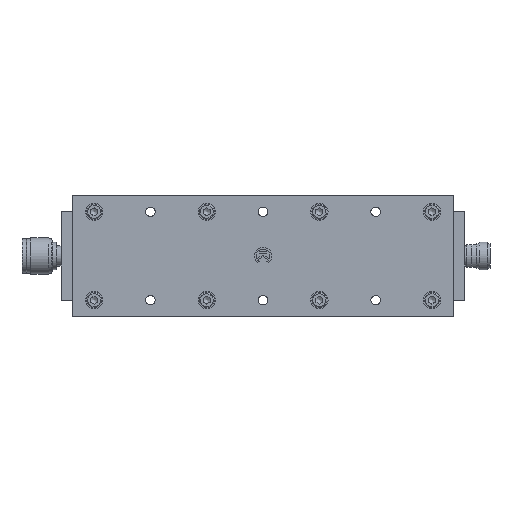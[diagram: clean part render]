
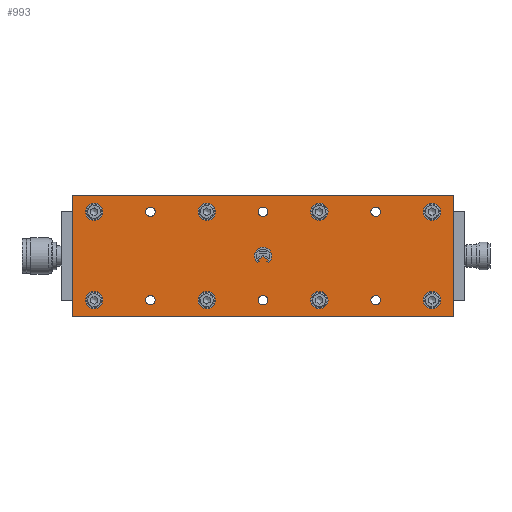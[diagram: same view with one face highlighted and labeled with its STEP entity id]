
A CAD part, top view. The second image highlights one B-rep face of the part: STEP entity #993.
In plain terms, the highlighted planar face has unit normal (0, 0, 1).
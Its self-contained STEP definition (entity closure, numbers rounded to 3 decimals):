
#993=ADVANCED_FACE('',(#2013,#2015,#2017,#2019,#2021,#2023,#2025,#2027,#2029,#2031,
#2033,#2035,#2037,#2039,#2041,#2043),#2045,.T.);
#2013=FACE_BOUND('',#2014,.T.);
#2014=EDGE_LOOP('',(#4165,#4166,#4167,#4168));
#2015=FACE_BOUND('',#2016,.T.);
#2016=EDGE_LOOP('',(#4169,#4170,#4171,#4172,#4173,#4174,#4175));
#2017=FACE_BOUND('',#2018,.T.);
#2018=EDGE_LOOP('',(#4176));
#2019=FACE_BOUND('',#2020,.T.);
#2020=EDGE_LOOP('',(#4177));
#2021=FACE_BOUND('',#2022,.T.);
#2022=EDGE_LOOP('',(#4178));
#2023=FACE_BOUND('',#2024,.T.);
#2024=EDGE_LOOP('',(#4179));
#2025=FACE_BOUND('',#2026,.T.);
#2026=EDGE_LOOP('',(#4180));
#2027=FACE_BOUND('',#2028,.T.);
#2028=EDGE_LOOP('',(#4181));
#2029=FACE_BOUND('',#2030,.T.);
#2030=EDGE_LOOP('',(#4182));
#2031=FACE_BOUND('',#2032,.T.);
#2032=EDGE_LOOP('',(#4183));
#2033=FACE_BOUND('',#2034,.T.);
#2034=EDGE_LOOP('',(#4184));
#2035=FACE_BOUND('',#2036,.T.);
#2036=EDGE_LOOP('',(#4185));
#2037=FACE_BOUND('',#2038,.T.);
#2038=EDGE_LOOP('',(#4186));
#2039=FACE_BOUND('',#2040,.T.);
#2040=EDGE_LOOP('',(#4187));
#2041=FACE_BOUND('',#2042,.T.);
#2042=EDGE_LOOP('',(#4188));
#2043=FACE_BOUND('',#2044,.T.);
#2044=EDGE_LOOP('',(#4189));
#2045=PLANE('',#2046);
#2046=AXIS2_PLACEMENT_3D('',#2047,#2048,#2049);
#2047=CARTESIAN_POINT('',(-35.,-110.,12.5));
#2048=DIRECTION('',(0.,0.,1.));
#2049=DIRECTION('',(1.,0.,0.));
#4165=ORIENTED_EDGE('',*,*,#4992,.F.);
#4166=ORIENTED_EDGE('',*,*,#4993,.T.);
#4167=ORIENTED_EDGE('',*,*,#4994,.T.);
#4168=ORIENTED_EDGE('',*,*,#4995,.F.);
#4169=ORIENTED_EDGE('',*,*,#4996,.T.);
#4170=ORIENTED_EDGE('',*,*,#4997,.T.);
#4171=ORIENTED_EDGE('',*,*,#4998,.T.);
#4172=ORIENTED_EDGE('',*,*,#4999,.T.);
#4173=ORIENTED_EDGE('',*,*,#5000,.T.);
#4174=ORIENTED_EDGE('',*,*,#5001,.T.);
#4175=ORIENTED_EDGE('',*,*,#5002,.T.);
#4176=ORIENTED_EDGE('',*,*,#5003,.T.);
#4177=ORIENTED_EDGE('',*,*,#5004,.T.);
#4178=ORIENTED_EDGE('',*,*,#5005,.T.);
#4179=ORIENTED_EDGE('',*,*,#5006,.T.);
#4180=ORIENTED_EDGE('',*,*,#5007,.T.);
#4181=ORIENTED_EDGE('',*,*,#5008,.T.);
#4182=ORIENTED_EDGE('',*,*,#5009,.T.);
#4183=ORIENTED_EDGE('',*,*,#5010,.T.);
#4184=ORIENTED_EDGE('',*,*,#5011,.T.);
#4185=ORIENTED_EDGE('',*,*,#5012,.T.);
#4186=ORIENTED_EDGE('',*,*,#5013,.T.);
#4187=ORIENTED_EDGE('',*,*,#5014,.T.);
#4188=ORIENTED_EDGE('',*,*,#5015,.T.);
#4189=ORIENTED_EDGE('',*,*,#5016,.T.);
#4992=EDGE_CURVE('',#5559,#5560,#5561,.T.);
#4993=EDGE_CURVE('',#5559,#5562,#5563,.T.);
#4994=EDGE_CURVE('',#5562,#5564,#5565,.T.);
#4995=EDGE_CURVE('',#5560,#5564,#5566,.T.);
#4996=EDGE_CURVE('',#5567,#5568,#5569,.F.);
#4997=EDGE_CURVE('',#5568,#5570,#5571,.F.);
#4998=EDGE_CURVE('',#5570,#5572,#5573,.F.);
#4999=EDGE_CURVE('',#5572,#5574,#5575,.F.);
#5000=EDGE_CURVE('',#5574,#5576,#5577,.F.);
#5001=EDGE_CURVE('',#5576,#5578,#5579,.F.);
#5002=EDGE_CURVE('',#5578,#5567,#5580,.F.);
#5003=EDGE_CURVE('',#5581,#5581,#5582,.F.);
#5004=EDGE_CURVE('',#5583,#5583,#5584,.F.);
#5005=EDGE_CURVE('',#5585,#5585,#5586,.F.);
#5006=EDGE_CURVE('',#5587,#5587,#5588,.F.);
#5007=EDGE_CURVE('',#5589,#5589,#5590,.F.);
#5008=EDGE_CURVE('',#5591,#5591,#5592,.F.);
#5009=EDGE_CURVE('',#5593,#5593,#5594,.F.);
#5010=EDGE_CURVE('',#5595,#5595,#5596,.F.);
#5011=EDGE_CURVE('',#5597,#5597,#5598,.F.);
#5012=EDGE_CURVE('',#5599,#5599,#5600,.F.);
#5013=EDGE_CURVE('',#5601,#5601,#5602,.F.);
#5014=EDGE_CURVE('',#5603,#5603,#5604,.F.);
#5015=EDGE_CURVE('',#5605,#5605,#5606,.F.);
#5016=EDGE_CURVE('',#5607,#5607,#5608,.F.);
#5559=VERTEX_POINT('',#6700);
#5560=VERTEX_POINT('',#6701);
#5561=LINE('',#6702,#6703);
#5562=VERTEX_POINT('',#6705);
#5563=LINE('',#6706,#6707);
#5564=VERTEX_POINT('',#6709);
#5565=LINE('',#6710,#6711);
#5566=LINE('',#6713,#6714);
#5567=VERTEX_POINT('',#6716);
#5568=VERTEX_POINT('',#6717);
#5569=CIRCLE('',#6718,4.);
#5570=VERTEX_POINT('',#6722);
#5571=LINE('',#6723,#6724);
#5572=VERTEX_POINT('',#6726);
#5573=CIRCLE('',#6727,5.);
#5574=VERTEX_POINT('',#6731);
#5575=LINE('',#6732,#6733);
#5576=VERTEX_POINT('',#6735);
#5577=CIRCLE('',#6736,4.);
#5578=VERTEX_POINT('',#6740);
#5579=LINE('',#6741,#6742);
#5580=LINE('',#6744,#6745);
#5581=VERTEX_POINT('',#6747);
#5582=CIRCLE('',#6748,5.);
#5583=VERTEX_POINT('',#6752);
#5584=CIRCLE('',#6753,5.);
#5585=VERTEX_POINT('',#6757);
#5586=CIRCLE('',#6758,5.);
#5587=VERTEX_POINT('',#6762);
#5588=CIRCLE('',#6763,5.);
#5589=VERTEX_POINT('',#6767);
#5590=CIRCLE('',#6768,5.);
#5591=VERTEX_POINT('',#6772);
#5592=CIRCLE('',#6773,5.);
#5593=VERTEX_POINT('',#6777);
#5594=CIRCLE('',#6778,5.);
#5595=VERTEX_POINT('',#6782);
#5596=CIRCLE('',#6783,5.);
#5597=VERTEX_POINT('',#6787);
#5598=CIRCLE('',#6788,2.75);
#5599=VERTEX_POINT('',#6792);
#5600=CIRCLE('',#6793,2.75);
#5601=VERTEX_POINT('',#6797);
#5602=CIRCLE('',#6798,2.75);
#5603=VERTEX_POINT('',#6802);
#5604=CIRCLE('',#6803,2.75);
#5605=VERTEX_POINT('',#6807);
#5606=CIRCLE('',#6808,2.75);
#5607=VERTEX_POINT('',#6812);
#5608=CIRCLE('',#6813,2.75);
#6700=CARTESIAN_POINT('',(-34.9,-109.9,12.5));
#6701=CARTESIAN_POINT('',(-34.9,109.9,12.5));
#6702=CARTESIAN_POINT('',(-34.9,-109.9,12.5));
#6703=VECTOR('',#6704,1.);
#6704=DIRECTION('',(0.,1.,0.));
#6705=CARTESIAN_POINT('',(34.9,-109.9,12.5));
#6706=CARTESIAN_POINT('',(-34.9,-109.9,12.5));
#6707=VECTOR('',#6708,1.);
#6708=DIRECTION('',(1.,0.,0.));
#6709=CARTESIAN_POINT('',(34.9,109.9,12.5));
#6710=CARTESIAN_POINT('',(34.9,-109.9,12.5));
#6711=VECTOR('',#6712,1.);
#6712=DIRECTION('',(0.,1.,0.));
#6713=CARTESIAN_POINT('',(-34.9,109.9,12.5));
#6714=VECTOR('',#6715,1.);
#6715=DIRECTION('',(1.,0.,0.));
#6716=CARTESIAN_POINT('',(-2.417,3.187,12.5));
#6717=CARTESIAN_POINT('',(-3.345,2.194,12.5));
#6718=AXIS2_PLACEMENT_3D('',#6719,#6720,#6721);
#6719=CARTESIAN_POINT('',(0.,0.,12.5));
#6720=DIRECTION('',(0.,0.,-1.));
#6721=DIRECTION('',(-0.836,0.548,0.));
#6722=CARTESIAN_POINT('',(-3.891,3.14,12.5));
#6723=CARTESIAN_POINT('',(-3.891,3.14,12.5));
#6724=VECTOR('',#6725,1.);
#6725=DIRECTION('',(0.5,-0.866,0.));
#6726=CARTESIAN_POINT('',(-3.891,-3.14,12.5));
#6727=AXIS2_PLACEMENT_3D('',#6728,#6729,#6730);
#6728=CARTESIAN_POINT('',(0.,0.,12.5));
#6729=DIRECTION('',(0.,0.,1.));
#6730=DIRECTION('',(-0.778,-0.628,0.));
#6731=CARTESIAN_POINT('',(-3.345,-2.194,12.5));
#6732=CARTESIAN_POINT('',(-3.345,-2.194,12.5));
#6733=VECTOR('',#6734,1.);
#6734=DIRECTION('',(-0.5,-0.866,0.));
#6735=CARTESIAN_POINT('',(-2.417,-3.187,12.5));
#6736=AXIS2_PLACEMENT_3D('',#6737,#6738,#6739);
#6737=CARTESIAN_POINT('',(0.,0.,12.5));
#6738=DIRECTION('',(0.,0.,-1.));
#6739=DIRECTION('',(-0.604,-0.797,0.));
#6740=CARTESIAN_POINT('',(-0.577,0.,12.5));
#6741=CARTESIAN_POINT('',(-0.577,0.,12.5));
#6742=VECTOR('',#6743,1.);
#6743=DIRECTION('',(-0.5,-0.866,0.));
#6744=CARTESIAN_POINT('',(-2.417,3.187,12.5));
#6745=VECTOR('',#6746,1.);
#6746=DIRECTION('',(0.5,-0.866,0.));
#6747=CARTESIAN_POINT('',(20.5,-97.5,12.5));
#6748=AXIS2_PLACEMENT_3D('',#6749,#6750,#6751);
#6749=CARTESIAN_POINT('',(25.5,-97.5,12.5));
#6750=DIRECTION('',(0.,0.,1.));
#6751=DIRECTION('',(-1.,0.,0.));
#6752=CARTESIAN_POINT('',(-30.5,-97.5,12.5));
#6753=AXIS2_PLACEMENT_3D('',#6754,#6755,#6756);
#6754=CARTESIAN_POINT('',(-25.5,-97.5,12.5));
#6755=DIRECTION('',(0.,0.,1.));
#6756=DIRECTION('',(-1.,0.,0.));
#6757=CARTESIAN_POINT('',(-30.5,-32.5,12.5));
#6758=AXIS2_PLACEMENT_3D('',#6759,#6760,#6761);
#6759=CARTESIAN_POINT('',(-25.5,-32.5,12.5));
#6760=DIRECTION('',(0.,0.,1.));
#6761=DIRECTION('',(-1.,0.,0.));
#6762=CARTESIAN_POINT('',(20.5,-32.5,12.5));
#6763=AXIS2_PLACEMENT_3D('',#6764,#6765,#6766);
#6764=CARTESIAN_POINT('',(25.5,-32.5,12.5));
#6765=DIRECTION('',(0.,0.,1.));
#6766=DIRECTION('',(-1.,0.,0.));
#6767=CARTESIAN_POINT('',(-30.5,32.5,12.5));
#6768=AXIS2_PLACEMENT_3D('',#6769,#6770,#6771);
#6769=CARTESIAN_POINT('',(-25.5,32.5,12.5));
#6770=DIRECTION('',(0.,0.,1.));
#6771=DIRECTION('',(-1.,0.,0.));
#6772=CARTESIAN_POINT('',(20.5,32.5,12.5));
#6773=AXIS2_PLACEMENT_3D('',#6774,#6775,#6776);
#6774=CARTESIAN_POINT('',(25.5,32.5,12.5));
#6775=DIRECTION('',(0.,0.,1.));
#6776=DIRECTION('',(-1.,0.,0.));
#6777=CARTESIAN_POINT('',(20.5,97.5,12.5));
#6778=AXIS2_PLACEMENT_3D('',#6779,#6780,#6781);
#6779=CARTESIAN_POINT('',(25.5,97.5,12.5));
#6780=DIRECTION('',(0.,0.,1.));
#6781=DIRECTION('',(-1.,0.,0.));
#6782=CARTESIAN_POINT('',(-30.5,97.5,12.5));
#6783=AXIS2_PLACEMENT_3D('',#6784,#6785,#6786);
#6784=CARTESIAN_POINT('',(-25.5,97.5,12.5));
#6785=DIRECTION('',(0.,0.,1.));
#6786=DIRECTION('',(-1.,0.,0.));
#6787=CARTESIAN_POINT('',(-28.25,65.,12.5));
#6788=AXIS2_PLACEMENT_3D('',#6789,#6790,#6791);
#6789=CARTESIAN_POINT('',(-25.5,65.,12.5));
#6790=DIRECTION('',(0.,0.,1.));
#6791=DIRECTION('',(-1.,0.,0.));
#6792=CARTESIAN_POINT('',(22.75,65.,12.5));
#6793=AXIS2_PLACEMENT_3D('',#6794,#6795,#6796);
#6794=CARTESIAN_POINT('',(25.5,65.,12.5));
#6795=DIRECTION('',(0.,0.,1.));
#6796=DIRECTION('',(-1.,0.,0.));
#6797=CARTESIAN_POINT('',(-28.25,0.,12.5));
#6798=AXIS2_PLACEMENT_3D('',#6799,#6800,#6801);
#6799=CARTESIAN_POINT('',(-25.5,0.,12.5));
#6800=DIRECTION('',(0.,0.,1.));
#6801=DIRECTION('',(-1.,0.,0.));
#6802=CARTESIAN_POINT('',(22.75,0.,12.5));
#6803=AXIS2_PLACEMENT_3D('',#6804,#6805,#6806);
#6804=CARTESIAN_POINT('',(25.5,0.,12.5));
#6805=DIRECTION('',(0.,0.,1.));
#6806=DIRECTION('',(-1.,0.,0.));
#6807=CARTESIAN_POINT('',(-28.25,-65.,12.5));
#6808=AXIS2_PLACEMENT_3D('',#6809,#6810,#6811);
#6809=CARTESIAN_POINT('',(-25.5,-65.,12.5));
#6810=DIRECTION('',(0.,0.,1.));
#6811=DIRECTION('',(-1.,0.,0.));
#6812=CARTESIAN_POINT('',(22.75,-65.,12.5));
#6813=AXIS2_PLACEMENT_3D('',#6814,#6815,#6816);
#6814=CARTESIAN_POINT('',(25.5,-65.,12.5));
#6815=DIRECTION('',(0.,0.,1.));
#6816=DIRECTION('',(-1.,0.,0.));
